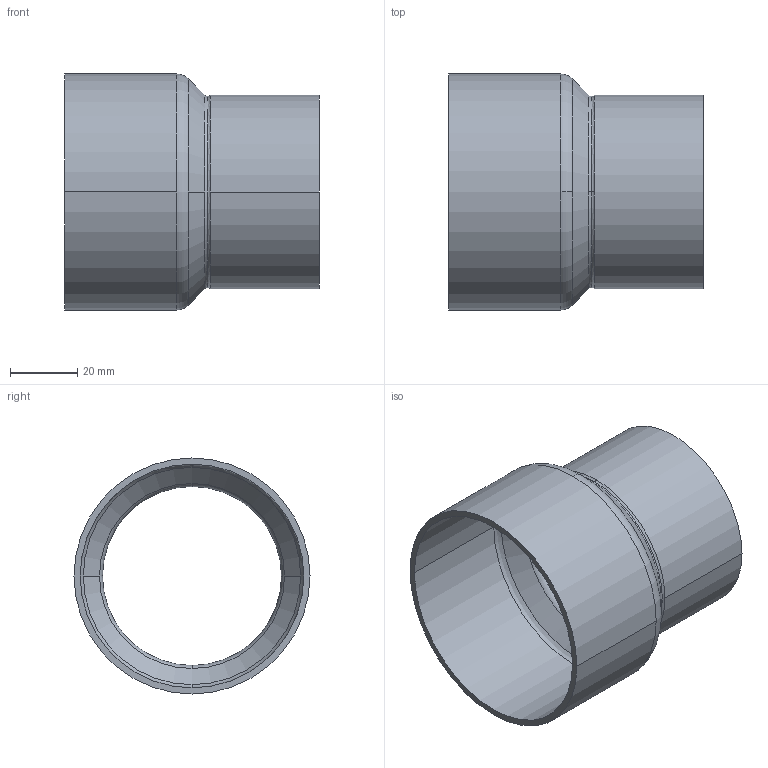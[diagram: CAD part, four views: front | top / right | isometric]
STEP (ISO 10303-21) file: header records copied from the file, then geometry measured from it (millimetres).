
FILE_DESCRIPTION((''),'2;1');
FILE_NAME('G:\Technics\CAD\Bauteile\Serie 15240\152406754.stp','2005-10-21T12:51:19',('boden'),(''),'Autodesk Inventor 8','Autodesk Inventor 8','');
FILE_SCHEMA(('AUTOMOTIVE_DESIGN { 1 0 10303 214 1 1 1 1 }'));
Length unit declared in the file: millimetre
Products named in the file (1): 152406754
Bounding box: 76 x 70.4 x 70.4 mm (x, y, z)
Volume: 28399.3 mm3; surface area: 31426.5 mm2
Topology: 1 solids, 1 shells, 26 faces, 68 edges, 44 vertices
Faces by surface type: cylinder 8, torus 6, bspline 6, cone 4, plane 2
Entity records: 1103 total; most frequent: CARTESIAN_POINT 403, DIRECTION 166, ORIENTED_EDGE 136, AXIS2_PLACEMENT_3D 77, EDGE_CURVE 68, CIRCLE 56, VERTEX_POINT 44, EDGE_LOOP 28
